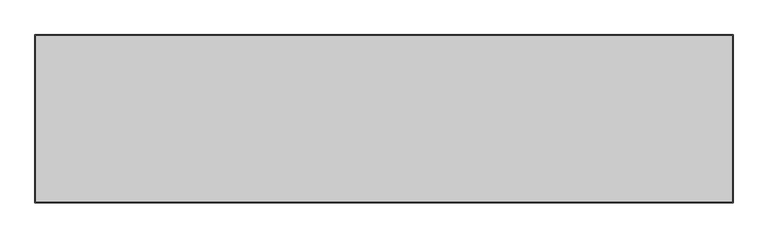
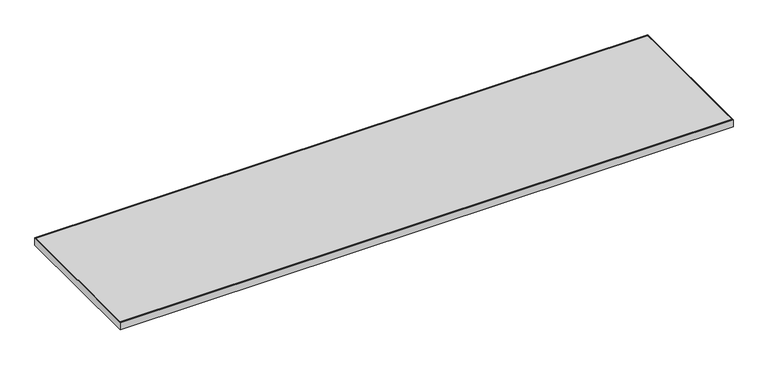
"""IFC4 building model written with IfcOpenShell, lengths in millimetres: furniture geometry, Steelcase - Universal Storage - Square Edge Top - Flush Front - Laminate : Common Top - 24D x 96W."""

from ifc_helpers import new_model, si_unit, frame, origin, place, context, project, spatial, polyline, outline, extrude, source, transform, mapped, element, save


def furniture_cf0116ca(model_context):
    return source(origin(), model_context, "Body", "SweptSolid", [
        extrude(outline(polyline([(2435.3520001, -3.0479999), (2435.3520001, -584.4540001), (3.0479999, -584.4540001), (3.0479999, -3.0479999), (2435.3520001, -3.0479999)])), frame((0.0, 0.0, 680.72), z_axis=(0.0, 0.0, 1.0), x_axis=(1.0, 0.0, 0.0)), (0.0, 0.0, 1.0), 30.48),
        extrude(outline(polyline([(2438.4, 0.0), (2438.4, -587.502), (0.0, -587.502), (0.0, 0.0), (2438.4, 0.0)]), holes=[polyline([(2435.3520001, -3.0479999), (3.0479999, -3.0479999), (3.0479999, -584.4540001), (2435.3520001, -584.4540001), (2435.3520001, -3.0479999)])]), frame((0.0, 0.0, 680.72), z_axis=(0.0, 0.0, 1.0), x_axis=(1.0, 0.0, 0.0)), (0.0, 0.0, 1.0), 30.48),
    ])


if __name__ == "__main__":
    model = new_model("IFC4")
    model_context = context("Model", 3, world=origin())
    ifc_project = project(units=[si_unit("LENGTHUNIT", "METRE", prefix="MILLI")], contexts=[model_context])
    site = spatial("IfcSite", under=ifc_project)
    building = spatial("IfcBuilding", under=site)
    placement = place(None, origin())
    furniture_shape = furniture_cf0116ca(model_context)
    element("IfcFurniture", 1, ObjectType="Steelcase - Universal Storage - Square Edge Top - Flush Front - Laminate : Common Top - 24D x 96W", at=placement, inside=building, context=model_context, shape_type="MappedRepresentation", body=[
        mapped(furniture_shape, transform((0.0, 0.0, 0.0), x_axis=(1.0, 0.0, 0.0), y_axis=(0.0, 1.0, 0.0), z_axis=(0.0, 0.0, 1.0))),
    ])
    save(model, "model.ifc")
